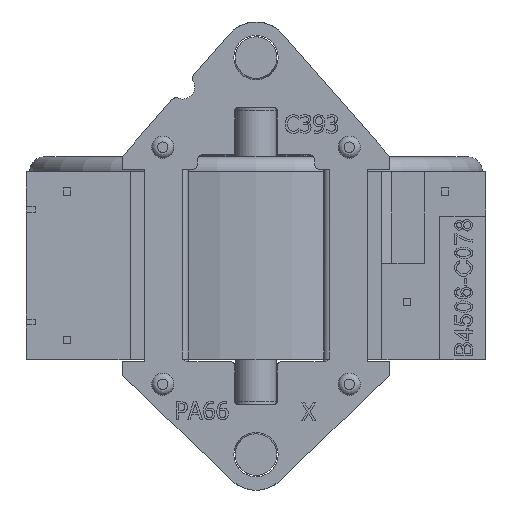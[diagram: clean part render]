
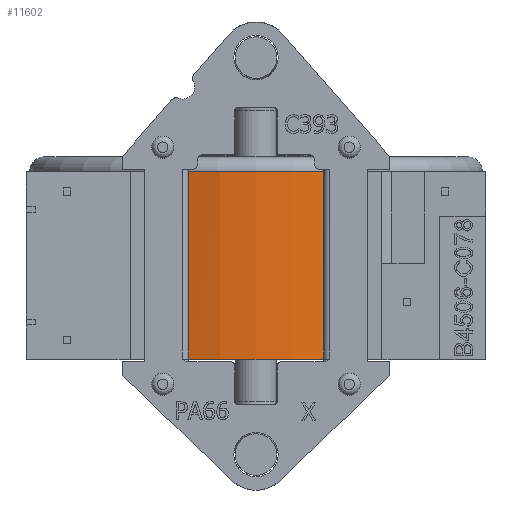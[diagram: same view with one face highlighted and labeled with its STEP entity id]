
A CAD part, front view. The second image highlights one B-rep face of the part: STEP entity #11602.
In plain terms, the highlighted cylindrical face has radius 15.5 mm (diameter 31 mm), a partial arc.
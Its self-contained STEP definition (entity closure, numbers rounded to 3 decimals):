
#234=B_SPLINE_CURVE_WITH_KNOTS('',3,(#15322,#15323,#15324,#15325,#15326,
#15327),.UNSPECIFIED.,.F.,.F.,(4,2,4),(0.,0.008,0.009),
 .UNSPECIFIED.);
#492=B_SPLINE_CURVE_WITH_KNOTS('',3,(#19177,#19178,#19179,#19180,#19181,
#19182),.UNSPECIFIED.,.F.,.F.,(4,2,4),(0.,0.,0.008),
 .UNSPECIFIED.);
#781=CIRCLE('',#11908,15.5);
#970=CIRCLE('',#12368,15.5);
#1083=CYLINDRICAL_SURFACE('',#12375,15.5);
#1535=FACE_OUTER_BOUND('',#2205,.T.);
#2205=EDGE_LOOP('',(#9856,#9857,#9858,#9859,#9860,#9861));
#3000=LINE('',#19168,#4049);
#3152=LINE('',#19692,#4201);
#4049=VECTOR('',#13765,10.);
#4201=VECTOR('',#14317,10.);
#4623=VERTEX_POINT('',#15247);
#4624=VERTEX_POINT('',#15249);
#4651=VERTEX_POINT('',#15320);
#4652=VERTEX_POINT('',#15321);
#5203=VERTEX_POINT('',#19175);
#5204=VERTEX_POINT('',#19176);
#5804=EDGE_CURVE('',#4624,#4623,#781,.T.);
#5835=EDGE_CURVE('',#4651,#4652,#234,.T.);
#6638=EDGE_CURVE('',#4624,#4652,#3000,.T.);
#6642=EDGE_CURVE('',#5203,#5204,#492,.T.);
#6883=EDGE_CURVE('',#4623,#5203,#3152,.T.);
#6903=EDGE_CURVE('',#4651,#5204,#970,.T.);
#9856=ORIENTED_EDGE('',*,*,#6638,.F.);
#9857=ORIENTED_EDGE('',*,*,#5804,.T.);
#9858=ORIENTED_EDGE('',*,*,#6883,.T.);
#9859=ORIENTED_EDGE('',*,*,#6642,.T.);
#9860=ORIENTED_EDGE('',*,*,#6903,.F.);
#9861=ORIENTED_EDGE('',*,*,#5835,.T.);
#11602=ADVANCED_FACE('',(#1535),#1083,.T.);
#11908=AXIS2_PLACEMENT_3D('',#15250,#12797,#12798);
#12368=AXIS2_PLACEMENT_3D('',#19729,#14351,#14352);
#12375=AXIS2_PLACEMENT_3D('',#19744,#14370,#14371);
#12797=DIRECTION('center_axis',(0.,0.,-1.));
#12798=DIRECTION('ref_axis',(0.591,-0.806,0.));
#13765=DIRECTION('',(0.,0.,-1.));
#14317=DIRECTION('',(0.,0.,-1.));
#14351=DIRECTION('center_axis',(0.,0.,-1.));
#14352=DIRECTION('ref_axis',(0.591,-0.806,0.));
#14370=DIRECTION('center_axis',(0.,0.,1.));
#14371=DIRECTION('ref_axis',(0.591,-0.806,0.));
#15247=CARTESIAN_POINT('',(-4.587,-13.154,12.7));
#15249=CARTESIAN_POINT('',(5.122,-13.154,12.7));
#15250=CARTESIAN_POINT('Origin',(0.267,1.566,12.7));
#15320=CARTESIAN_POINT('',(5.055,-13.176,0.));
#15321=CARTESIAN_POINT('',(5.122,-13.154,0.05));
#15322=CARTESIAN_POINT('Ctrl Pts',(5.055,-13.176,0.));
#15323=CARTESIAN_POINT('Ctrl Pts',(5.077,-13.169,0.016));
#15324=CARTESIAN_POINT('Ctrl Pts',(5.099,-13.162,0.033));
#15325=CARTESIAN_POINT('Ctrl Pts',(5.121,-13.154,0.049));
#15326=CARTESIAN_POINT('Ctrl Pts',(5.122,-13.154,0.05));
#15327=CARTESIAN_POINT('Ctrl Pts',(5.122,-13.154,0.05));
#19168=CARTESIAN_POINT('',(5.122,-13.154,12.7));
#19175=CARTESIAN_POINT('',(-4.587,-13.154,0.05));
#19176=CARTESIAN_POINT('',(-4.52,-13.176,0.));
#19177=CARTESIAN_POINT('Ctrl Pts',(-4.587,-13.154,
0.05));
#19178=CARTESIAN_POINT('Ctrl Pts',(-4.587,-13.154,
0.05));
#19179=CARTESIAN_POINT('Ctrl Pts',(-4.586,-13.154,0.049));
#19180=CARTESIAN_POINT('Ctrl Pts',(-4.564,-13.162,
0.033));
#19181=CARTESIAN_POINT('Ctrl Pts',(-4.542,-13.169,
0.016));
#19182=CARTESIAN_POINT('Ctrl Pts',(-4.52,-13.176,0.));
#19692=CARTESIAN_POINT('',(-4.587,-13.154,12.7));
#19729=CARTESIAN_POINT('Origin',(0.267,1.566,0.));
#19744=CARTESIAN_POINT('Origin',(0.267,1.566,0.));
